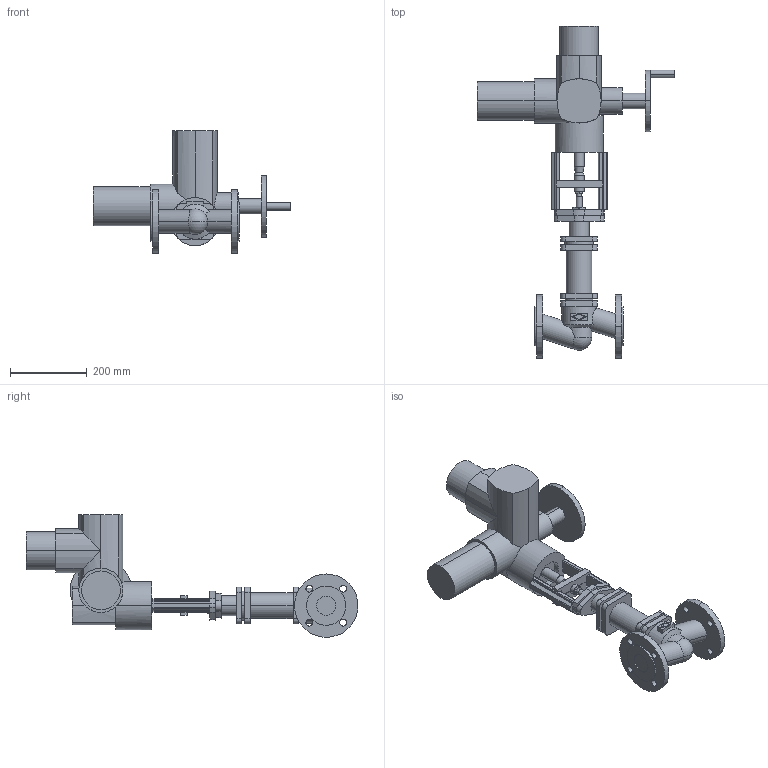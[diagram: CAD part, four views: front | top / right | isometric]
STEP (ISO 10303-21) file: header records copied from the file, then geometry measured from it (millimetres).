
FILE_DESCRIPTION(('OneSpaceDesigner STEP Export'),'2;1');
FILE_NAME('c000003145.stp','2007-01-19T11:43:25',(''),(''),'OneSpace Designer STEP processor for AP214 (Solid Model)','OneSpace Designer 14.00B 27-May-2006 (C) CoCreate Software GmbH','');
FILE_SCHEMA(('AUTOMOTIVE_DESIGN { 1 0 10303 214 1 1 1 1 }'));
Length unit declared in the file: millimetre
Products named in the file (2): 1; 2
Bounding box: 514 x 864.5 x 319.5 mm (x, y, z)
Volume: 11296700.3 mm3; surface area: 705638.1 mm2
Topology: 2 solids, 2 shells, 301 faces, 773 edges, 496 vertices
Faces by surface type: cylinder 150, plane 143, cone 6, sphere 2
Entity records: 9775 total; most frequent: CARTESIAN_POINT 2026, ORIENTED_EDGE 1542, DIRECTION 1329, SURFACE_CURVE 771, EDGE_CURVE 771, VERTEX_POINT 496, AXIS2_PLACEMENT_3D 448, VECTOR 433
